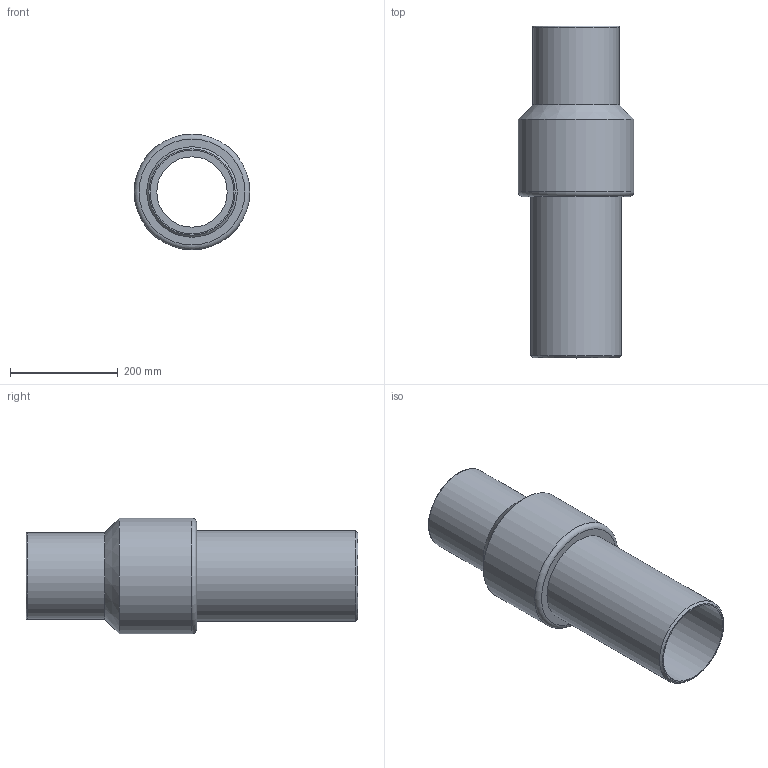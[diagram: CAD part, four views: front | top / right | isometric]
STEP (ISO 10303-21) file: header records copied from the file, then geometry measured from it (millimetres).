
FILE_DESCRIPTION(/* description */ ('Unknown'),/* implementation_level */ '2;1');
FILE_NAME(/* name */ 'RTSNP160C',/* time_stamp */ '2022-04-26T17:39:08+02:00',/* author */ ('Unknown'),/* organization */ ('Unknown'),/* preprocessor_version */ 'ST-DEVELOPER v18.1',/* originating_system */ 'Solid Edge',/* authorisation */ 'Unknown');
FILE_SCHEMA (('AUTOMOTIVE_DESIGN {1 0 10303 214 3 1 1}'));
Length unit declared in the file: millimetre
Products named in the file (3): RTSNP160C; Parte PE_; Partea ACCIAIO
Assembly tree (2 placements, depth 2):
  RTSNP160C
    Parte PE_
    Partea ACCIAIO
Bounding box: 215 x 617 x 215 mm (x, y, z)
Volume: 4826859.3 mm3; surface area: 819495.4 mm2
Topology: 2 solids, 2 shells, 15 faces, 27 edges, 17 vertices
Faces by surface type: cylinder 6, plane 5, cone 2, torus 2
Full cylindrical faces by diameter (mm): 130.8 x1, 155.6 x1, 160 x1, 168.3 x2, 215 x1
Entity records: 388 total; most frequent: DIRECTION 66, CARTESIAN_POINT 48, AXIS2_PLACEMENT_3D 33, ORIENTED_EDGE 30, EDGE_LOOP 30, FACE_BOUND 30, EDGE_CURVE 15, VERTEX_POINT 15
